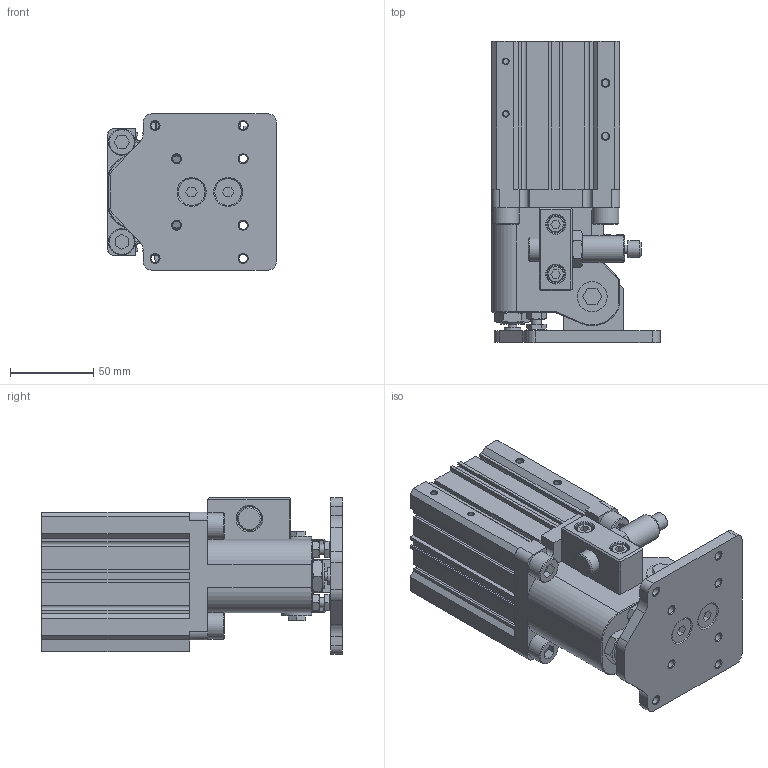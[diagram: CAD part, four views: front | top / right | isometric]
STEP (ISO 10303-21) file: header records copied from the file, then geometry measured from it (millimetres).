
FILE_DESCRIPTION(/* description */ (''),/* implementation_level */ '2;1');
FILE_NAME(/* name */ 'DHR2C-63M35-ZG-ZB-AC.stp',/* time_stamp */ '2024-06-17T14:00:56+08:00',/* author */ (''),/* organization */ (''),/* preprocessor_version */ 'ST-DEVELOPER v15',/* originating_system */ 'SIEMENS PLM Software NX 10.0',/* authorisation */ '');
FILE_SCHEMA (('AP203_CONFIGURATION_CONTROLLED_3D_DESIGN_OF_MECHANICAL_PARTS_AND_ASSEMBLIES_MIM_LF { 1 0 10303 403 2 1 2}'));
Length unit declared in the file: millimetre
Products named in the file (1): Admi17A8933F7amj
Bounding box: 101.5 x 181 x 94 mm (x, y, z)
Volume: 785644.7 mm3; surface area: 179978.6 mm2
Topology: 35 solids, 35 shells, 888 faces, 2067 edges, 1320 vertices
Faces by surface type: plane 461, cylinder 197, cone 196, sphere 24, torus 6, bspline 4
Full cylindrical faces by diameter (mm): 2 x4, 2.5 x7, 3 x2, 3.3 x4, 4 x1, 4.2 x2, 5 x21, 6 x11, 6.75 x4, 7 x2, 8 x3, 8.5 x6, 10 x8, 10.6 x4, 11 x2, 11.6 x2, 12 x8, 14.5 x6, 16 x8, 18 x2, 20 x5, 20.5 x1, 22 x1, 22.8 x1, 23 x1, 24 x1, 28 x1, 38 x2, 38.5 x1, 64.8 x2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
Entity records: 26137 total; most frequent: CARTESIAN_POINT 7254, DIRECTION 3866, ORIENTED_EDGE 3400, EDGE_CURVE 1700, AXIS2_PLACEMENT_3D 1469, EDGE_LOOP 1326, VERTEX_POINT 1228, LINE 928
